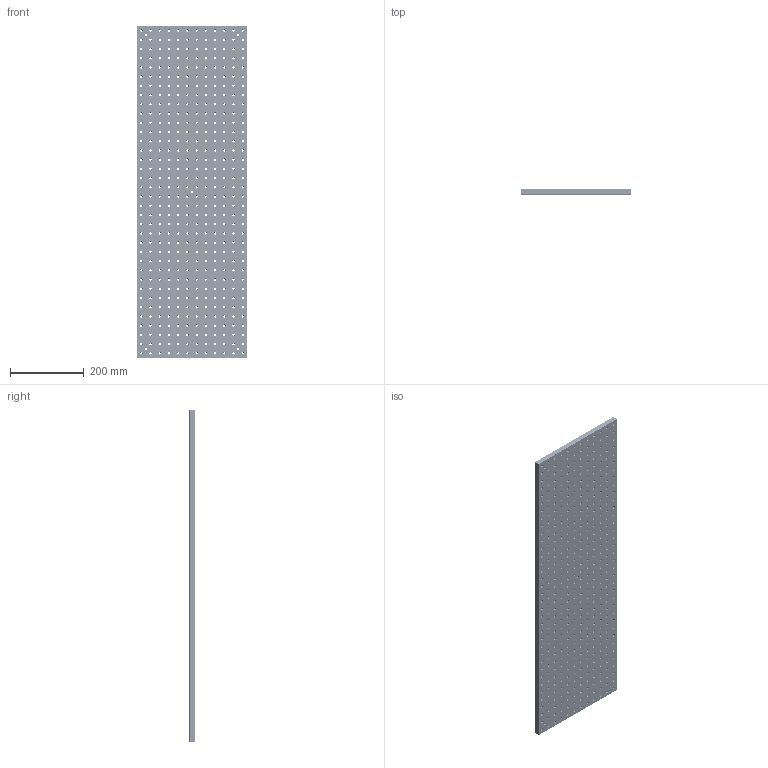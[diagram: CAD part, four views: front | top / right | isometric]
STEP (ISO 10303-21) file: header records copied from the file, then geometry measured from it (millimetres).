
FILE_DESCRIPTION((''),'2;1');
FILE_NAME('OHD-3090','2020-11-18T',('Administrator'),(''),'CREO PARAMETRIC BY PTC INC, 2017300','CREO PARAMETRIC BY PTC INC, 2017300','');
FILE_SCHEMA(('CONFIG_CONTROL_DESIGN'));
Products named in the file (1): OHD-3090
Bounding box: 300 x 14 x 900 mm (x, y, z)
Volume: 3601604.1 mm3; surface area: 659498.3 mm2
Topology: 1 solids, 1 shells, 2645 faces, 6176 edges, 3538 vertices
Faces by surface type: cone 1738, cylinder 888, plane 19
Entity records: 76774 total; most frequent: DIRECTION 14964, CARTESIAN_POINT 12379, ORIENTED_EDGE 12352, EDGE_CURVE 6176, AXIS2_PLACEMENT_3D 6159, VERTEX_POINT 3538, EDGE_LOOP 3524, CIRCLE 3514
